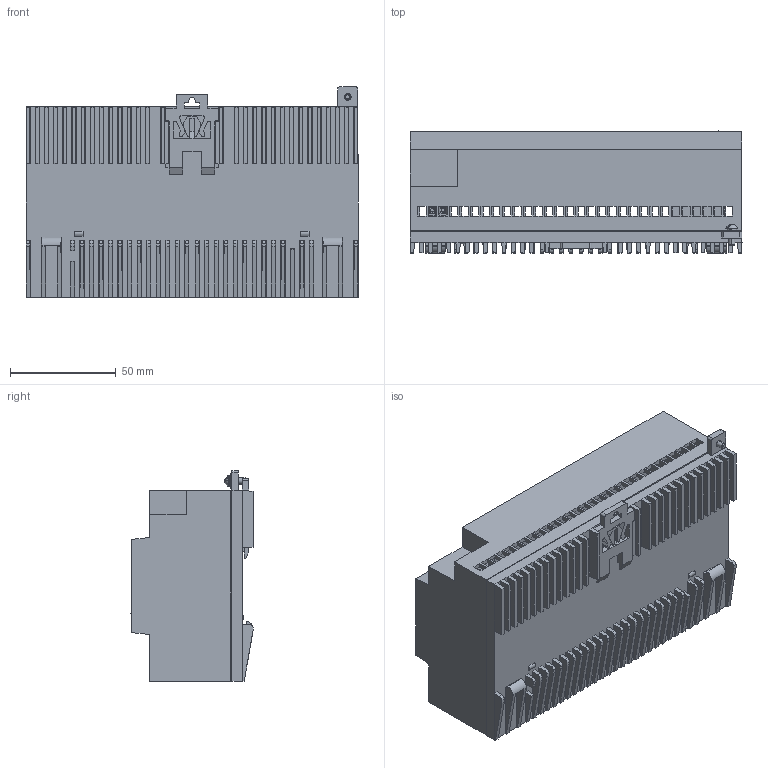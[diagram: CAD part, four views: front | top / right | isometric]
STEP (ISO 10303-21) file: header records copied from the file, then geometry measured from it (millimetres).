
FILE_DESCRIPTION (( 'STEP AP214' ), '1' );
FILE_NAME ('3D Ìîäåëü ÁÏ120Á-Ä4-24Ñ.STEP', '2016-10-05T17:09:52', ( '' ), ( '' ), 'SwSTEP 2.0', 'SolidWorks 2013', '' );
FILE_SCHEMA (( 'AUTOMOTIVE_DESIGN' ));
Length unit declared in the file: millimetre
Products named in the file (10): 椯鴀殣罻; Ôèêñàòîð òèï2; ﾘ琺矜 M3_3,0; Øàéáà ãðîâåðà M3 ÃÎÑÒ 6402_˜ ©¡  3.65ƒ.019 ƒŽ‘’ 6402; 鎔艜 襞旂 17473_M3x8; Êëåììà íèçêàÿ_11õ8õ5ìì; ﾈ淸韭瑣ⅱ; ﾎ魵瑙韃 DIN9U_M; Êîðïóñ Ä9-24Ñ_âåðõ; 3D Ìîäåëü ÁÏ120Á-Ä4-24Ñ
Assembly tree (15 placements, depth 2):
  3D Ìîäåëü ÁÏ120Á-Ä4-24Ñ
    Êîðïóñ Ä9-24Ñ_âåðõ
    ﾎ魵瑙韃 DIN9U_M
    ﾈ淸韭瑣ⅱ
    Êëåììà íèçêàÿ_11õ8õ5ìì  x7
    鎔艜 襞旂 17473_M3x8
    Øàéáà ãðîâåðà M3 ÃÎÑÒ 6402_˜ ©¡  3.65ƒ.019 ƒŽ‘’ 6402
    ﾘ琺矜 M3_3,0
    Ôèêñàòîð òèï2
    椯鴀殣罻
Bounding box: 157.17 x 57.8 x 99.64 mm (x, y, z)
Volume: 234011.7 mm3; surface area: 124832.2 mm2
Topology: 16 solids, 16 shells, 1687 faces, 4476 edges, 2930 vertices
Faces by surface type: plane 1367, cylinder 153, bspline 151, cone 10, sphere 4, torus 2
Entity records: 56481 total; most frequent: CARTESIAN_POINT 10557, ORIENTED_EDGE 7704, DIRECTION 6278, EDGE_CURVE 3852, VECTOR 3294, LINE 3294, VERTEX_POINT 2522, EDGE_LOOP 1664
